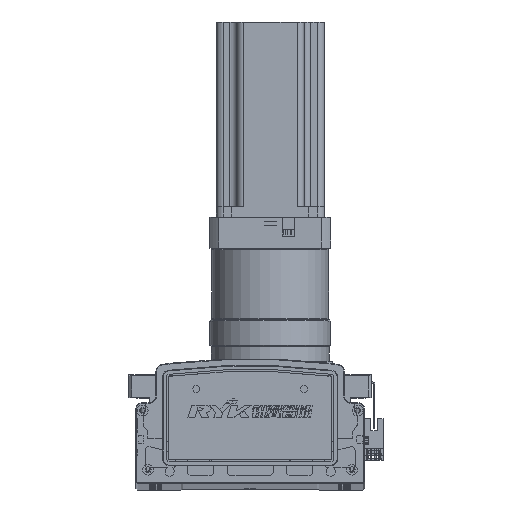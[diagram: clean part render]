
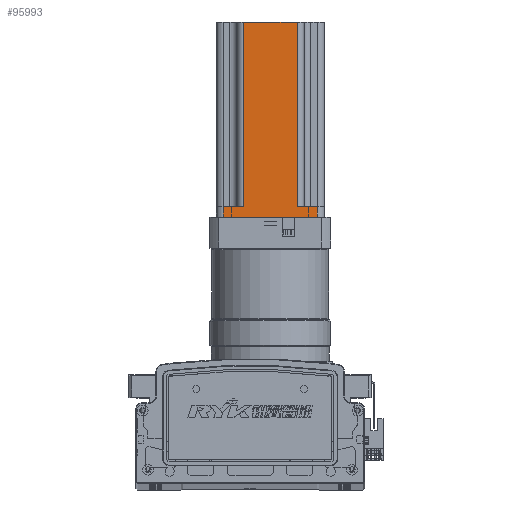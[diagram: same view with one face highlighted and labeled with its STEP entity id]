
A CAD part, top view. The second image highlights one B-rep face of the part: STEP entity #95993.
In plain terms, the highlighted planar face has unit normal (0, 0, 1) as drawn and (0, -1, 0) by its records, which use the part's own axes.
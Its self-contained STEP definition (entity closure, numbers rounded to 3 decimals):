
#17078 = EDGE_CURVE ( 'NONE', #43339, #43328, #19344, .T. ) ;
#17249 = EDGE_CURVE ( 'NONE', #43402, #43339, #19499, .T. ) ;
#17272 = EDGE_CURVE ( 'NONE', #43434, #43345, #19483, .T. ) ;
#17282 = EDGE_CURVE ( 'NONE', #43434, #43350, #19461, .T. ) ;
#17294 = EDGE_CURVE ( 'NONE', #43402, #43350, #19492, .T. ) ;
#17343 = EDGE_CURVE ( 'NONE', #43443, #43360, #19478, .T. ) ;
#17367 = EDGE_CURVE ( 'NONE', #43443, #43345, #19579, .T. ) ;
#17386 = EDGE_CURVE ( 'NONE', #43328, #43360, #19565, .T. ) ;
#19344 = LINE ( 'NONE', #75808, #19355 ) ;
#19355 = VECTOR ( 'NONE', #75819, 1000. ) ;
#19449 = VECTOR ( 'NONE', #76007, 1000. ) ;
#19457 = VECTOR ( 'NONE', #75973, 1000. ) ;
#19461 = LINE ( 'NONE', #75990, #19526 ) ;
#19478 = LINE ( 'NONE', #76047, #19603 ) ;
#19483 = LINE ( 'NONE', #75994, #19449 ) ;
#19492 = LINE ( 'NONE', #76016, #19521 ) ;
#19499 = LINE ( 'NONE', #75972, #19457 ) ;
#19521 = VECTOR ( 'NONE', #75992, 1000. ) ;
#19526 = VECTOR ( 'NONE', #76013, 1000. ) ;
#19534 = VECTOR ( 'NONE', #76133, 1000. ) ;
#19565 = LINE ( 'NONE', #76115, #19534 ) ;
#19579 = LINE ( 'NONE', #76076, #19611 ) ;
#19603 = VECTOR ( 'NONE', #76054, 1000. ) ;
#19611 = VECTOR ( 'NONE', #76085, 1000. ) ;
#33114 = AXIS2_PLACEMENT_3D ( 'NONE', #64338, #64318, #64324 ) ;
#41430 = CARTESIAN_POINT ( 'NONE',  ( -12.587, -40.37, 0. ) ) ;
#41432 = CARTESIAN_POINT ( 'NONE',  ( -27.587, -40.37, 145. ) ) ;
#41445 = CARTESIAN_POINT ( 'NONE',  ( -67.587, -40.37, 8. ) ) ;
#41451 = CARTESIAN_POINT ( 'NONE',  ( -82.587, -40.37, 0. ) ) ;
#41468 = CARTESIAN_POINT ( 'NONE',  ( -12.587, -40.37, 8. ) ) ;
#41531 = CARTESIAN_POINT ( 'NONE',  ( -67.587, -40.37, 145. ) ) ;
#41560 = CARTESIAN_POINT ( 'NONE',  ( -82.587, -40.37, 8. ) ) ;
#41567 = CARTESIAN_POINT ( 'NONE',  ( -27.587, -40.37, 8. ) ) ;
#43328 = VERTEX_POINT ( 'NONE', #41430 ) ;
#43339 = VERTEX_POINT ( 'NONE', #41451 ) ;
#43345 = VERTEX_POINT ( 'NONE', #41432 ) ;
#43350 = VERTEX_POINT ( 'NONE', #41445 ) ;
#43360 = VERTEX_POINT ( 'NONE', #41468 ) ;
#43402 = VERTEX_POINT ( 'NONE', #41560 ) ;
#43434 = VERTEX_POINT ( 'NONE', #41531 ) ;
#43443 = VERTEX_POINT ( 'NONE', #41567 ) ;
#47278 = EDGE_LOOP ( 'NONE', ( #73015, #73042, #73052, #73072, #73077, #73011, #73027, #73086 ) ) ;
#64311 = PLANE ( 'NONE',  #33114 ) ;
#64318 = DIRECTION ( 'NONE',  ( 0., 1., 0. ) ) ;
#64324 = DIRECTION ( 'NONE',  ( -1., 0., 0. ) ) ;
#64338 = CARTESIAN_POINT ( 'NONE',  ( -87.587, -40.37, 145. ) ) ;
#68546 = FACE_OUTER_BOUND ( 'NONE', #47278, .T. ) ;
#73011 = ORIENTED_EDGE ( 'NONE', *, *, #17367, .T. ) ;
#73015 = ORIENTED_EDGE ( 'NONE', *, *, #17294, .F. ) ;
#73027 = ORIENTED_EDGE ( 'NONE', *, *, #17272, .F. ) ;
#73042 = ORIENTED_EDGE ( 'NONE', *, *, #17249, .T. ) ;
#73052 = ORIENTED_EDGE ( 'NONE', *, *, #17078, .T. ) ;
#73072 = ORIENTED_EDGE ( 'NONE', *, *, #17386, .T. ) ;
#73077 = ORIENTED_EDGE ( 'NONE', *, *, #17343, .F. ) ;
#73086 = ORIENTED_EDGE ( 'NONE', *, *, #17282, .T. ) ;
#75808 = CARTESIAN_POINT ( 'NONE',  ( -87.587, -40.37, 0. ) ) ;
#75819 = DIRECTION ( 'NONE',  ( 1., 0., 0. ) ) ;
#75972 = CARTESIAN_POINT ( 'NONE',  ( -82.587, -40.37, 145. ) ) ;
#75973 = DIRECTION ( 'NONE',  ( 0., 0., -1. ) ) ;
#75990 = CARTESIAN_POINT ( 'NONE',  ( -67.587, -40.37, 145. ) ) ;
#75992 = DIRECTION ( 'NONE',  ( 1., 0., 0. ) ) ;
#75994 = CARTESIAN_POINT ( 'NONE',  ( -87.587, -40.37, 145. ) ) ;
#76007 = DIRECTION ( 'NONE',  ( 1., 0., 0. ) ) ;
#76013 = DIRECTION ( 'NONE',  ( 0., 0., -1. ) ) ;
#76016 = CARTESIAN_POINT ( 'NONE',  ( -87.587, -40.37, 8. ) ) ;
#76047 = CARTESIAN_POINT ( 'NONE',  ( -7.587, -40.37, 8. ) ) ;
#76054 = DIRECTION ( 'NONE',  ( 1., 0., 0. ) ) ;
#76076 = CARTESIAN_POINT ( 'NONE',  ( -27.587, -40.37, 145. ) ) ;
#76085 = DIRECTION ( 'NONE',  ( 0., 0., 1. ) ) ;
#76115 = CARTESIAN_POINT ( 'NONE',  ( -12.587, -40.37, 145. ) ) ;
#76133 = DIRECTION ( 'NONE',  ( 0., 0., 1. ) ) ;
#95993 = ADVANCED_FACE ( 'NONE', ( #68546 ), #64311, .F. ) ;
